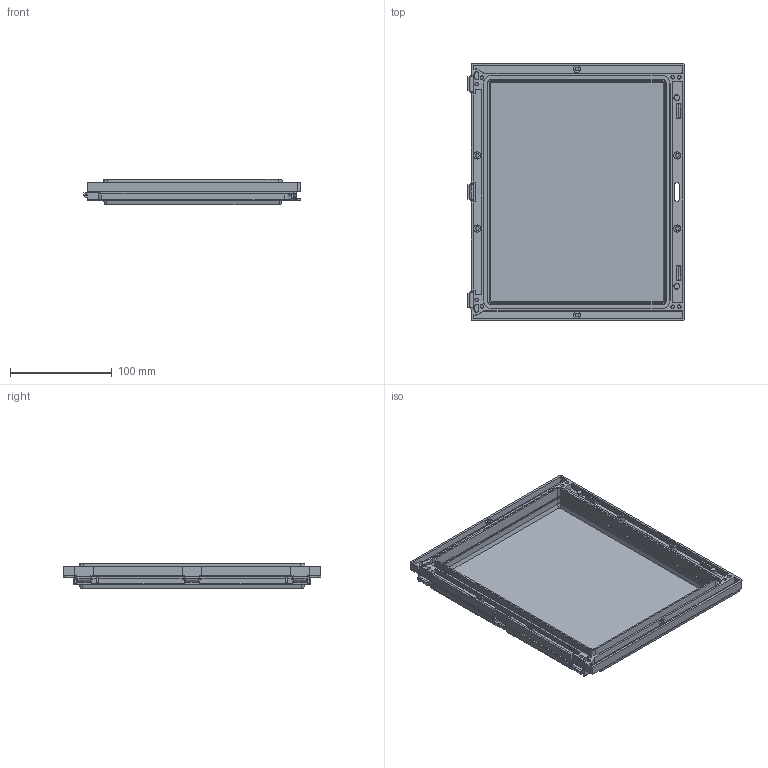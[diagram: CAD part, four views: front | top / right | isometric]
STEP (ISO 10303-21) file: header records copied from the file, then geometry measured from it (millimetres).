
FILE_DESCRIPTION (( 'STEP AP214' ), '1' );
FILE_NAME ('4.114.STEP', '2016-10-17T08:20:31', ( '' ), ( '' ), 'SwSTEP 2.0', 'SolidWorks 2015', '' );
FILE_SCHEMA (( 'AUTOMOTIVE_DESIGN' ));
Length unit declared in the file: millimetre
Products named in the file (3): 4.114.02; 4.114.01; 4.114
Assembly tree (2 placements, depth 2):
  4.114
    4.114.01
    4.114.02
Bounding box: 213.5 x 254 x 25.3 mm (x, y, z)
Volume: 208618.7 mm3; surface area: 214666.1 mm2
Topology: 2 solids, 2 shells, 565 faces, 1503 edges, 968 vertices
Faces by surface type: plane 335, cylinder 112, cone 98, bspline 20
Entity records: 24259 total; most frequent: CARTESIAN_POINT 4037, ORIENTED_EDGE 3006, DIRECTION 2789, EDGE_CURVE 1503, VECTOR 1029, LINE 1029, VERTEX_POINT 968, AXIS2_PLACEMENT_3D 880
